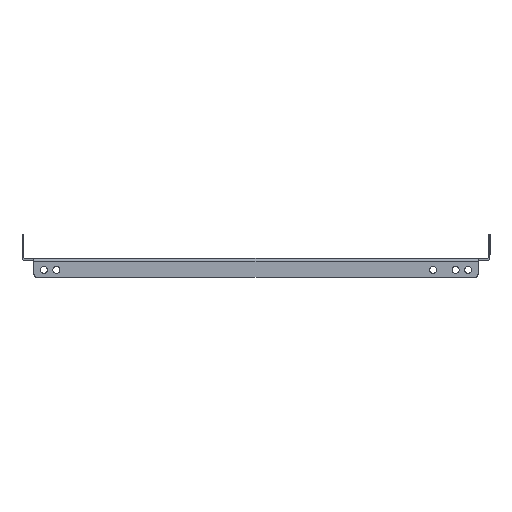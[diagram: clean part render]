
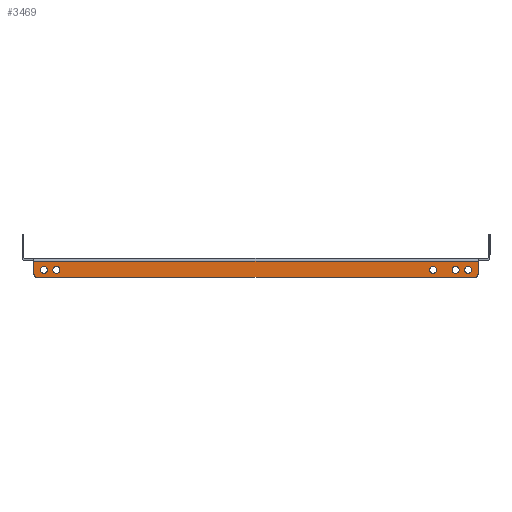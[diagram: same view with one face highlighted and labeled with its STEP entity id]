
A CAD part, left-side view. The second image highlights one B-rep face of the part: STEP entity #3469.
In plain terms, the highlighted planar face has unit normal (-1, 0, 0).
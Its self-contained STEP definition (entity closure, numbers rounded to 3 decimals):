
#30 = CIRCLE ( 'NONE', #2564, 3.5 ) ;
#87 = EDGE_CURVE ( 'NONE', #1278, #4133, #3698, .T. ) ;
#95 = DIRECTION ( 'NONE',  ( -1., 0., 0. ) ) ;
#139 = EDGE_LOOP ( 'NONE', ( #4030, #159 ) ) ;
#152 = CARTESIAN_POINT ( 'NONE',  ( -250., -222.5, -0.6 ) ) ;
#159 = ORIENTED_EDGE ( 'NONE', *, *, #4319, .F. ) ;
#163 = CIRCLE ( 'NONE', #2914, 3.5 ) ;
#186 = VECTOR ( 'NONE', #3427, 1000. ) ;
#195 = CARTESIAN_POINT ( 'NONE',  ( -250., -222.5, -17. ) ) ;
#302 = CARTESIAN_POINT ( 'NONE',  ( -250., 222.5, -14. ) ) ;
#313 = FACE_BOUND ( 'NONE', #4134, .T. ) ;
#325 = EDGE_CURVE ( 'NONE', #3178, #2926, #163, .T. ) ;
#338 = DIRECTION ( 'NONE',  ( 0., 0., -1. ) ) ;
#385 = ORIENTED_EDGE ( 'NONE', *, *, #2674, .F. ) ;
#391 = EDGE_CURVE ( 'NONE', #1209, #2257, #4061, .T. ) ;
#412 = ORIENTED_EDGE ( 'NONE', *, *, #1455, .F. ) ;
#459 = ORIENTED_EDGE ( 'NONE', *, *, #325, .F. ) ;
#505 = CARTESIAN_POINT ( 'NONE',  ( -250., 212.5, -6. ) ) ;
#548 = DIRECTION ( 'NONE',  ( 0., 0., -1. ) ) ;
#609 = CARTESIAN_POINT ( 'NONE',  ( -250., 200., -9.5 ) ) ;
#638 = VERTEX_POINT ( 'NONE', #3970 ) ;
#641 = AXIS2_PLACEMENT_3D ( 'NONE', #2390, #1537, #1491 ) ;
#677 = CARTESIAN_POINT ( 'NONE',  ( -250., -200., -9.5 ) ) ;
#682 = ORIENTED_EDGE ( 'NONE', *, *, #4414, .T. ) ;
#697 = CARTESIAN_POINT ( 'NONE',  ( -250., -200., -13. ) ) ;
#707 = CIRCLE ( 'NONE', #4161, 3.5 ) ;
#747 = AXIS2_PLACEMENT_3D ( 'NONE', #2153, #95, #2888 ) ;
#805 = DIRECTION ( 'NONE',  ( 0., 0., 1. ) ) ;
#876 = VERTEX_POINT ( 'NONE', #2167 ) ;
#907 = DIRECTION ( 'NONE',  ( -1., 0., 0. ) ) ;
#910 = DIRECTION ( 'NONE',  ( 0., 0., 1. ) ) ;
#954 = DIRECTION ( 'NONE',  ( 1., 0., 0. ) ) ;
#989 = DIRECTION ( 'NONE',  ( -1., 0., 0. ) ) ;
#1019 = EDGE_CURVE ( 'NONE', #4180, #876, #3343, .T. ) ;
#1069 = VERTEX_POINT ( 'NONE', #3741 ) ;
#1090 = VERTEX_POINT ( 'NONE', #1786 ) ;
#1094 = EDGE_CURVE ( 'NONE', #2257, #1209, #3852, .T. ) ;
#1137 = VECTOR ( 'NONE', #2957, 1000. ) ;
#1209 = VERTEX_POINT ( 'NONE', #1450 ) ;
#1265 = ORIENTED_EDGE ( 'NONE', *, *, #1019, .T. ) ;
#1278 = VERTEX_POINT ( 'NONE', #505 ) ;
#1304 = VERTEX_POINT ( 'NONE', #152 ) ;
#1305 = ORIENTED_EDGE ( 'NONE', *, *, #2452, .F. ) ;
#1309 = EDGE_LOOP ( 'NONE', ( #3937, #412 ) ) ;
#1328 = DIRECTION ( 'NONE',  ( 0., 0., -1. ) ) ;
#1379 = DIRECTION ( 'NONE',  ( -1., 0., 0. ) ) ;
#1443 = EDGE_CURVE ( 'NONE', #876, #4180, #4142, .T. ) ;
#1446 = FACE_BOUND ( 'NONE', #3679, .T. ) ;
#1450 = CARTESIAN_POINT ( 'NONE',  ( -250., -200., -6. ) ) ;
#1454 = VERTEX_POINT ( 'NONE', #4337 ) ;
#1455 = EDGE_CURVE ( 'NONE', #638, #1454, #30, .T. ) ;
#1491 = DIRECTION ( 'NONE',  ( 0., 0., 1. ) ) ;
#1501 = EDGE_LOOP ( 'NONE', ( #1784, #682, #1305, #4348, #385, #2745 ) ) ;
#1506 = CIRCLE ( 'NONE', #3503, 3.5 ) ;
#1537 = DIRECTION ( 'NONE',  ( -1., 0., 0. ) ) ;
#1606 = DIRECTION ( 'NONE',  ( 0., 0., 1. ) ) ;
#1654 = AXIS2_PLACEMENT_3D ( 'NONE', #2813, #3841, #3819 ) ;
#1683 = DIRECTION ( 'NONE',  ( 0., 0., -1. ) ) ;
#1691 = FACE_BOUND ( 'NONE', #139, .T. ) ;
#1697 = DIRECTION ( 'NONE',  ( -1., 0., 0. ) ) ;
#1715 = DIRECTION ( 'NONE',  ( 0., 0., -1. ) ) ;
#1783 = FACE_BOUND ( 'NONE', #3259, .T. ) ;
#1784 = ORIENTED_EDGE ( 'NONE', *, *, #1949, .F. ) ;
#1786 = CARTESIAN_POINT ( 'NONE',  ( -250., 219.5, -17. ) ) ;
#1861 = VECTOR ( 'NONE', #2125, 1000. ) ;
#1915 = AXIS2_PLACEMENT_3D ( 'NONE', #677, #1697, #338 ) ;
#1918 = VERTEX_POINT ( 'NONE', #302 ) ;
#1949 = EDGE_CURVE ( 'NONE', #3222, #1090, #3078, .T. ) ;
#1961 = EDGE_CURVE ( 'NONE', #1918, #1090, #4301, .T. ) ;
#1991 = CARTESIAN_POINT ( 'NONE',  ( -250., 222.5, -0.6 ) ) ;
#2019 = DIRECTION ( 'NONE',  ( 0., 0., 1. ) ) ;
#2058 = CARTESIAN_POINT ( 'NONE',  ( -250., -212.5, -9.5 ) ) ;
#2059 = CARTESIAN_POINT ( 'NONE',  ( -250., 222.5, -17. ) ) ;
#2092 = ORIENTED_EDGE ( 'NONE', *, *, #4333, .F. ) ;
#2105 = CARTESIAN_POINT ( 'NONE',  ( -250., 222.5, 0. ) ) ;
#2111 = ORIENTED_EDGE ( 'NONE', *, *, #391, .F. ) ;
#2125 = DIRECTION ( 'NONE',  ( 0., 0., 1. ) ) ;
#2151 = LINE ( 'NONE', #2105, #1861 ) ;
#2153 = CARTESIAN_POINT ( 'NONE',  ( -250., -200., -9.5 ) ) ;
#2167 = CARTESIAN_POINT ( 'NONE',  ( -250., -177.5, -13. ) ) ;
#2190 = AXIS2_PLACEMENT_3D ( 'NONE', #3625, #954, #548 ) ;
#2257 = VERTEX_POINT ( 'NONE', #697 ) ;
#2333 = AXIS2_PLACEMENT_3D ( 'NONE', #2916, #3952, #3600 ) ;
#2390 = CARTESIAN_POINT ( 'NONE',  ( -250., 222.5, 0. ) ) ;
#2438 = CARTESIAN_POINT ( 'NONE',  ( -250., 222.5, -0.6 ) ) ;
#2452 = EDGE_CURVE ( 'NONE', #1304, #1069, #3281, .T. ) ;
#2564 = AXIS2_PLACEMENT_3D ( 'NONE', #609, #2625, #910 ) ;
#2625 = DIRECTION ( 'NONE',  ( -1., 0., 0. ) ) ;
#2650 = AXIS2_PLACEMENT_3D ( 'NONE', #4036, #907, #1606 ) ;
#2674 = EDGE_CURVE ( 'NONE', #1918, #2950, #2151, .T. ) ;
#2688 = CARTESIAN_POINT ( 'NONE',  ( -250., -219.5, -17. ) ) ;
#2738 = FACE_OUTER_BOUND ( 'NONE', #1501, .T. ) ;
#2745 = ORIENTED_EDGE ( 'NONE', *, *, #1961, .T. ) ;
#2813 = CARTESIAN_POINT ( 'NONE',  ( -250., -219.5, -14. ) ) ;
#2830 = CARTESIAN_POINT ( 'NONE',  ( -250., 219.5, -14. ) ) ;
#2837 = EDGE_CURVE ( 'NONE', #1304, #2950, #3743, .T. ) ;
#2888 = DIRECTION ( 'NONE',  ( 0., 0., -1. ) ) ;
#2914 = AXIS2_PLACEMENT_3D ( 'NONE', #4077, #1379, #1715 ) ;
#2916 = CARTESIAN_POINT ( 'NONE',  ( -250., 212.5, -9.5 ) ) ;
#2926 = VERTEX_POINT ( 'NONE', #3091 ) ;
#2950 = VERTEX_POINT ( 'NONE', #2438 ) ;
#2957 = DIRECTION ( 'NONE',  ( 0., 0., -1. ) ) ;
#3002 = CARTESIAN_POINT ( 'NONE',  ( -250., -212.5, -13. ) ) ;
#3027 = ORIENTED_EDGE ( 'NONE', *, *, #1094, .F. ) ;
#3078 = LINE ( 'NONE', #2059, #186 ) ;
#3091 = CARTESIAN_POINT ( 'NONE',  ( -250., -212.5, -6. ) ) ;
#3178 = VERTEX_POINT ( 'NONE', #3002 ) ;
#3220 = CIRCLE ( 'NONE', #1654, 3. ) ;
#3222 = VERTEX_POINT ( 'NONE', #2688 ) ;
#3259 = EDGE_LOOP ( 'NONE', ( #3446, #1265 ) ) ;
#3281 = LINE ( 'NONE', #195, #1137 ) ;
#3283 = AXIS2_PLACEMENT_3D ( 'NONE', #2830, #4179, #805 ) ;
#3317 = DIRECTION ( 'NONE',  ( 1., 0., 0. ) ) ;
#3343 = CIRCLE ( 'NONE', #3928, 3.5 ) ;
#3366 = DIRECTION ( 'NONE',  ( 0., 1., 0. ) ) ;
#3386 = DIRECTION ( 'NONE',  ( -1., 0., 0. ) ) ;
#3427 = DIRECTION ( 'NONE',  ( 0., 1., 0. ) ) ;
#3446 = ORIENTED_EDGE ( 'NONE', *, *, #1443, .T. ) ;
#3469 = ADVANCED_FACE ( 'NONE', ( #1783, #1446, #313, #4444, #1691, #2738 ), #4107, .T. ) ;
#3503 = AXIS2_PLACEMENT_3D ( 'NONE', #3731, #989, #2019 ) ;
#3600 = DIRECTION ( 'NONE',  ( 0., 0., 1. ) ) ;
#3625 = CARTESIAN_POINT ( 'NONE',  ( -250., -177.5, -9.5 ) ) ;
#3679 = EDGE_LOOP ( 'NONE', ( #2092, #459 ) ) ;
#3698 = CIRCLE ( 'NONE', #2333, 3.5 ) ;
#3731 = CARTESIAN_POINT ( 'NONE',  ( -250., 212.5, -9.5 ) ) ;
#3738 = EDGE_CURVE ( 'NONE', #1454, #638, #4305, .T. ) ;
#3741 = CARTESIAN_POINT ( 'NONE',  ( -250., -222.5, -14. ) ) ;
#3743 = LINE ( 'NONE', #1991, #4453 ) ;
#3819 = DIRECTION ( 'NONE',  ( 0., 0., 1. ) ) ;
#3841 = DIRECTION ( 'NONE',  ( -1., 0., 0. ) ) ;
#3852 = CIRCLE ( 'NONE', #1915, 3.5 ) ;
#3928 = AXIS2_PLACEMENT_3D ( 'NONE', #4362, #3317, #1328 ) ;
#3937 = ORIENTED_EDGE ( 'NONE', *, *, #3738, .F. ) ;
#3952 = DIRECTION ( 'NONE',  ( -1., 0., 0. ) ) ;
#3970 = CARTESIAN_POINT ( 'NONE',  ( -250., 200., -13. ) ) ;
#4030 = ORIENTED_EDGE ( 'NONE', *, *, #87, .F. ) ;
#4036 = CARTESIAN_POINT ( 'NONE',  ( -250., 200., -9.5 ) ) ;
#4061 = CIRCLE ( 'NONE', #747, 3.5 ) ;
#4077 = CARTESIAN_POINT ( 'NONE',  ( -250., -212.5, -9.5 ) ) ;
#4107 = PLANE ( 'NONE',  #641 ) ;
#4133 = VERTEX_POINT ( 'NONE', #4372 ) ;
#4134 = EDGE_LOOP ( 'NONE', ( #2111, #3027 ) ) ;
#4142 = CIRCLE ( 'NONE', #2190, 3.5 ) ;
#4160 = CARTESIAN_POINT ( 'NONE',  ( -250., -177.5, -6. ) ) ;
#4161 = AXIS2_PLACEMENT_3D ( 'NONE', #2058, #3386, #1683 ) ;
#4179 = DIRECTION ( 'NONE',  ( -1., 0., 0. ) ) ;
#4180 = VERTEX_POINT ( 'NONE', #4160 ) ;
#4301 = CIRCLE ( 'NONE', #3283, 3. ) ;
#4305 = CIRCLE ( 'NONE', #2650, 3.5 ) ;
#4319 = EDGE_CURVE ( 'NONE', #4133, #1278, #1506, .T. ) ;
#4333 = EDGE_CURVE ( 'NONE', #2926, #3178, #707, .T. ) ;
#4337 = CARTESIAN_POINT ( 'NONE',  ( -250., 200., -6. ) ) ;
#4348 = ORIENTED_EDGE ( 'NONE', *, *, #2837, .T. ) ;
#4362 = CARTESIAN_POINT ( 'NONE',  ( -250., -177.5, -9.5 ) ) ;
#4372 = CARTESIAN_POINT ( 'NONE',  ( -250., 212.5, -13. ) ) ;
#4414 = EDGE_CURVE ( 'NONE', #3222, #1069, #3220, .T. ) ;
#4444 = FACE_BOUND ( 'NONE', #1309, .T. ) ;
#4453 = VECTOR ( 'NONE', #3366, 1000. ) ;
